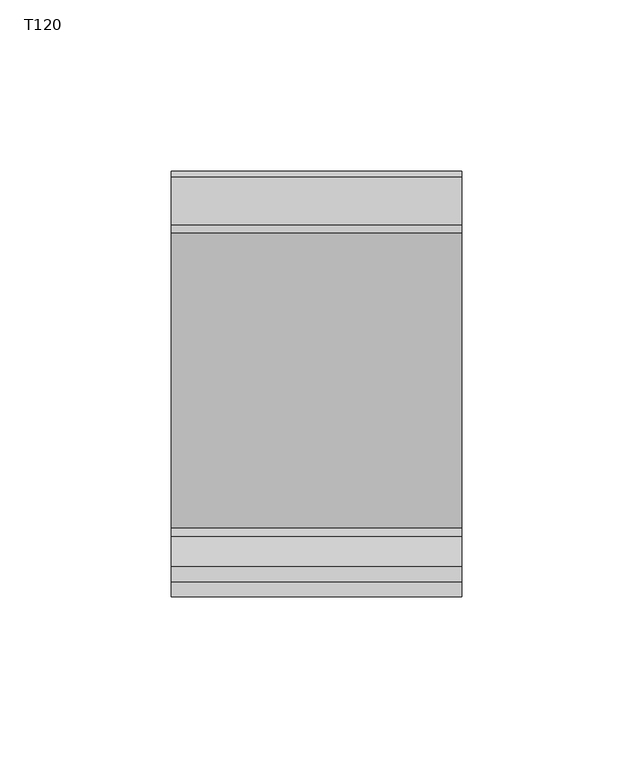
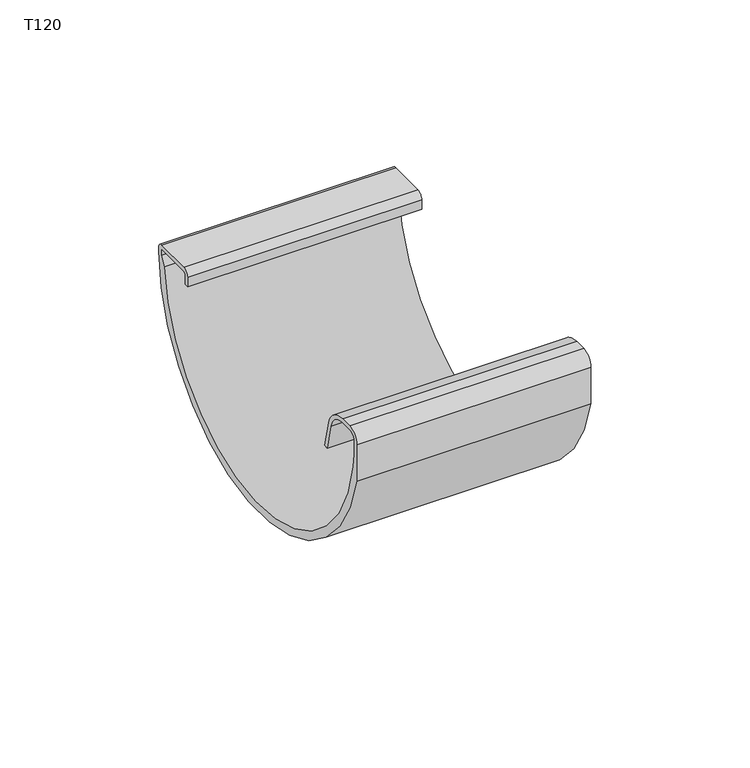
"""IFC4 building model written with IfcOpenShell, lengths in millimetres: proxy geometry, GROVIK_Gutter_Joint : T120."""

from ifc_helpers import new_model, si_unit, point, frame, frame_2d, origin, place, context, project, spatial, polyline, circle_curve, trimmed, segment, composite_curve, outline, extrude, source, transform, mapped, element, save


def t120_09be152c(model_context):
    return source(origin(), model_context, "Body", "SweptSolid", [
        extrude(outline(composite_curve([segment(trimmed(circle_curve(frame_2d((-59.995059, -1.03)), 60.0), [point((-119.2549128, -10.4251966))], [point((-0.184977, -5.8001248))], True, "CARTESIAN"), True, "CONTINUOUS"), segment(polyline([(-0.184977, -5.8001248), (1.4965206, -2.5), (1.4965206, 0.0), (-12.7034794, 0.0)]), True, "CONTINUOUS"), segment(trimmed(circle_curve(frame_2d((-12.7034794, -0.8)), 0.8), [point((-12.7034794, 0.0))], [point((-13.5034794, -0.8))], True, "CARTESIAN"), True, "CONTINUOUS"), segment(polyline([(-13.5034794, -0.8), (-13.5034794, -4.5), (-15.0034794, -4.5), (-15.0034794, -0.8)]), True, "CONTINUOUS"), segment(trimmed(circle_curve(frame_2d((-12.7034794, -0.8)), 2.3), [point((-15.0034794, -0.8))], [point((-12.7034794, 1.5))], False, "CARTESIAN"), True, "CONTINUOUS"), segment(polyline([(-12.7034794, 1.5), (1.3979945, 1.5)]), True, "CONTINUOUS"), segment(trimmed(circle_curve(frame_2d((1.4965206, 0.0)), 1.5032323), [point((1.3979945, 1.5))], [point((2.9997529, 0.0))], False, "CARTESIAN"), True, "CONTINUOUS"), segment(polyline([(2.9997529, 0.0), (2.9997529, -1.8385)]), True, "CONTINUOUS"), segment(trimmed(circle_curve(frame_2d((-59.995059, -1.03)), 63.0), [point((2.9997529, -1.8385))], [point((-121.495059, -14.6956504))], False, "CARTESIAN"), True, "CONTINUOUS"), segment(polyline([(-121.495059, -14.6956504), (-121.495059, -0.6)]), True, "CONTINUOUS"), segment(trimmed(circle_curve(frame_2d((-116.995059, -0.6)), 4.5), [point((-121.495059, -0.6))], [point((-116.995059, 3.9))], False, "CARTESIAN"), True, "CONTINUOUS"), segment(polyline([(-116.995059, 3.9), (-112.495059, 3.9)]), True, "CONTINUOUS"), segment(trimmed(circle_curve(frame_2d((-112.495059, -5.1006666)), 9.0006666), [point((-112.495059, 3.9))], [point((-103.7424787, -3.0020151))], False, "CARTESIAN"), True, "CONTINUOUS"), segment(polyline([(-103.7424787, -3.0020151), (-101.3641831, -12.9208714), (-102.8228385, -13.2706208), (-105.201134, -3.3517645)]), True, "CONTINUOUS"), segment(trimmed(circle_curve(frame_2d((-112.495059, -5.1006666)), 7.5006666), [point((-105.201134, -3.3517645))], [point((-112.495059, 2.4))], True, "CARTESIAN"), True, "CONTINUOUS"), segment(polyline([(-112.495059, 2.4), (-116.995059, 2.4)]), True, "CONTINUOUS"), segment(trimmed(circle_curve(frame_2d((-116.995059, -0.6)), 3.0), [point((-116.995059, 2.4))], [point((-119.995059, -0.6))], True, "CARTESIAN"), True, "CONTINUOUS"), segment(polyline([(-119.995059, -0.6), (-119.995059, -5.2006666), (-119.2549128, -10.4251966)]), True, "CONTINUOUS")], self_intersect=False)), frame((-42.5, 0.0, 0.0), z_axis=(1.0, 0.0, 0.0), x_axis=(0.0, 1.0, 0.0)), (0.0, 0.0, 1.0), 85.0),
    ])


if __name__ == "__main__":
    model = new_model("IFC4")
    model_context = context("Model", 3, world=origin())
    ifc_project = project(units=[si_unit("LENGTHUNIT", "METRE", prefix="MILLI")], contexts=[model_context])
    site = spatial("IfcSite", under=ifc_project)
    building = spatial("IfcBuilding", under=site)
    placement = place(None, origin())
    t120_shape = t120_09be152c(model_context)
    element("IfcBuildingElementProxy", 1, Name="GROVIK_Gutter_Joint : T120", ObjectType="GROVIK_Gutter_Joint : T120", at=placement, inside=building, context=model_context, shape_type="MappedRepresentation", body=[
        mapped(t120_shape, transform((0.0, 0.0, 0.0), x_axis=(1.0, 0.0, 0.0), y_axis=(0.0, 1.0, 0.0), z_axis=(0.0, 0.0, 1.0))),
    ])
    save(model, "model.ifc")
